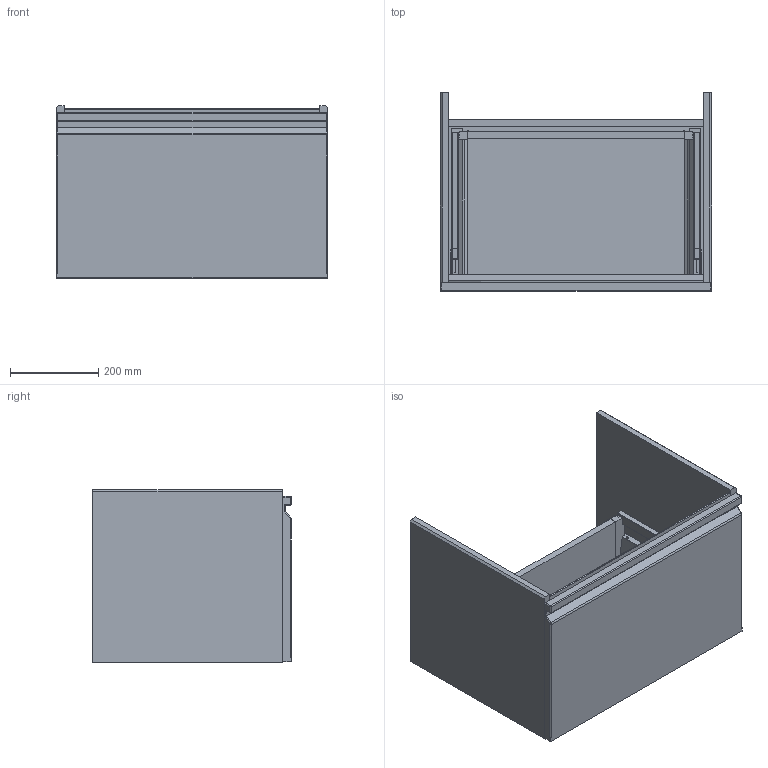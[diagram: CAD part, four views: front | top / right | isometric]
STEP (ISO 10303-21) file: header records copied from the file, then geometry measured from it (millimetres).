
FILE_DESCRIPTION(/* description */ (''),/* implementation_level */ '2;1');
FILE_NAME(/* name */ '3D274C~1',/* time_stamp */ '2018-05-14T09:06:52+02:00',/* author */ (''),/* organization */ (''),/* preprocessor_version */ 'ST-DEVELOPER v15',/* originating_system */ '',/* authorisation */ '');
FILE_SCHEMA (('AUTOMOTIVE_DESIGN'));
Length unit declared in the file: millimetre
Products named in the file (19): Document; Parte71; Parte69; Parte61; Parte59; Parte57; Parte55; Parte41; Parte39; Parte37; Parte35; Parte33; Parte23; Parte21; Parte19; Parte17; Parte15; Parte5; Parte3
Assembly tree (18 placements, depth 2):
  Document
    Parte71
    Parte69
    Parte61
    Parte59
    Parte57
    Parte55
    Parte41
    Parte39
    Parte37
    Parte35
    Parte33
    Parte23
    Parte21
    Parte19
    Parte17
    Parte15
    Parte5
    Parte3
Bounding box: 616 x 450 x 392 mm (x, y, z)
Volume: 20282548.4 mm3; surface area: 2723329 mm2
Topology: 18 solids, 18 shells, 537 faces, 1453 edges, 974 vertices
Faces by surface type: plane 364, bspline 173
Entity records: 19035 total; most frequent: CARTESIAN_POINT 9063, ORIENTED_EDGE 2898, EDGE_CURVE 1449, B_SPLINE_CURVE_WITH_KNOTS 1074, VERTEX_POINT 974, EDGE_LOOP 603, ADVANCED_FACE 537, FACE_OUTER_BOUND 537
